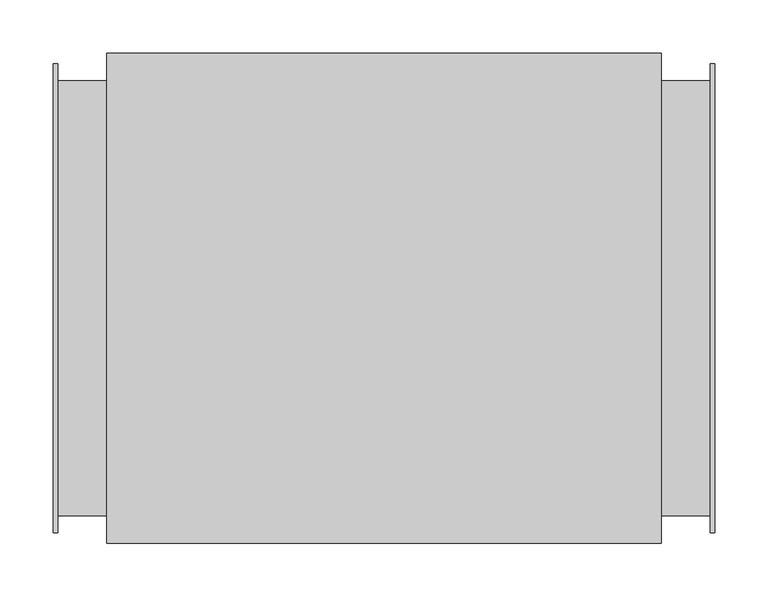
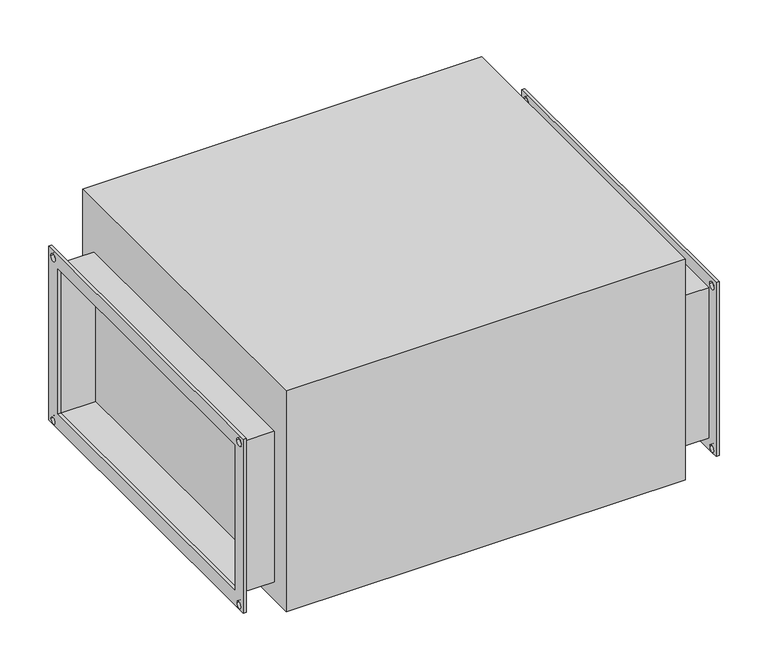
"""IFC4 building model written with IfcOpenShell, lengths in millimetres: proxy geometry."""

from ifc_helpers import new_model, si_unit, frame, origin, place, context, project, spatial, polyline, circle_curve, outline, extrude, source, transform, mapped, element, save
from ifc_brep_helpers import plane_surface, revolved_surface, advanced_brep


def mechanical_equipment_20f9e066(model_context):
    return source(origin(), model_context, "Body", "SolidModel", [
        advanced_brep(
        [(306.5, 220.0, 120.0), (306.5, 220.0, -120.0), (306.5, 210.0, -120.0), (306.5, 215.0, -115.0), (306.5, 205.0, -115.0), (306.5, -210.0, -120.0), (306.5, -205.0, -115.0), (306.5, -215.0, -115.0), (306.5, -220.0, -120.0), (306.5, -220.0, 120.0), (306.5, 200.0, 100.0), (306.5, -200.0, 100.0), (306.5, -200.0, -100.0), (306.5, 200.0, -100.0), (306.5, 205.0, 110.0), (306.5, 215.0, 110.0), (306.5, -215.0, 110.0), (306.5, -205.0, 110.0), (310.5, 220.0, 120.0), (310.5, -220.0, 120.0), (310.5, -220.0, -120.0), (310.5, -210.0, -120.0), (310.5, -215.0, -115.0), (310.5, -205.0, -115.0), (310.5, 210.0, -120.0), (310.5, 205.0, -115.0), (310.5, 215.0, -115.0), (310.5, 220.0, -120.0), (310.5, 200.0, 100.0), (310.5, 200.0, -100.0), (310.5, -200.0, -100.0), (310.5, -200.0, 100.0), (310.5, 215.0, 110.0), (310.5, 205.0, 110.0), (310.5, -205.0, 110.0), (310.5, -215.0, 110.0)],
        [
            (0, 1),
            (1, 2),
            (2, 3, circle_curve(frame((306.5, 210.0, -115.0), z_axis=(1.0, 0.0, 0.0), x_axis=(0.0, 1.0, 0.0)), 5.0)),
            (3, 4, circle_curve(frame((306.5, 210.0, -115.0), z_axis=(1.0, 0.0, 0.0), x_axis=(0.0, 1.0, 0.0)), 5.0)),
            (4, 2, circle_curve(frame((306.5, 210.0, -115.0), z_axis=(1.0, 0.0, 0.0), x_axis=(0.0, 1.0, 0.0)), 5.0)),
            (2, 5),
            (5, 6, circle_curve(frame((306.5, -210.0, -115.0), z_axis=(1.0, 0.0, 0.0), x_axis=(0.0, 1.0, 0.0)), 5.0)),
            (6, 7, circle_curve(frame((306.5, -210.0, -115.0), z_axis=(1.0, 0.0, 0.0), x_axis=(0.0, 1.0, 0.0)), 5.0)),
            (7, 5, circle_curve(frame((306.5, -210.0, -115.0), z_axis=(1.0, 0.0, 0.0), x_axis=(0.0, 1.0, 0.0)), 5.0)),
            (5, 8),
            (8, 9),
            (9, 0),
            (10, 11),
            (11, 12),
            (12, 13),
            (13, 10),
            (14, 15, circle_curve(frame((306.5, 210.0, 110.0), z_axis=(1.0, 0.0, 0.0), x_axis=(0.0, 1.0, 0.0)), 5.0)),
            (15, 14, circle_curve(frame((306.5, 210.0, 110.0), z_axis=(1.0, 0.0, 0.0), x_axis=(0.0, 1.0, 0.0)), 5.0)),
            (16, 17, circle_curve(frame((306.5, -210.0, 110.0), z_axis=(1.0, 0.0, 0.0), x_axis=(0.0, 1.0, 0.0)), 5.0)),
            (17, 16, circle_curve(frame((306.5, -210.0, 110.0), z_axis=(1.0, 0.0, 0.0), x_axis=(0.0, 1.0, 0.0)), 5.0)),
            (18, 19),
            (19, 20),
            (20, 21),
            (21, 22, circle_curve(frame((310.5, -210.0, -115.0), z_axis=(-1.0, 0.0, 0.0), x_axis=(0.0, 1.0, 0.0)), 5.0)),
            (22, 23, circle_curve(frame((310.5, -210.0, -115.0), z_axis=(-1.0, 0.0, 0.0), x_axis=(0.0, 1.0, 0.0)), 5.0)),
            (23, 21, circle_curve(frame((310.5, -210.0, -115.0), z_axis=(-1.0, 0.0, 0.0), x_axis=(0.0, 1.0, 0.0)), 5.0)),
            (21, 24),
            (24, 25, circle_curve(frame((310.5, 210.0, -115.0), z_axis=(-1.0, 0.0, 0.0), x_axis=(0.0, 1.0, 0.0)), 5.0)),
            (25, 26, circle_curve(frame((310.5, 210.0, -115.0), z_axis=(-1.0, 0.0, 0.0), x_axis=(0.0, 1.0, 0.0)), 5.0)),
            (26, 24, circle_curve(frame((310.5, 210.0, -115.0), z_axis=(-1.0, 0.0, 0.0), x_axis=(0.0, 1.0, 0.0)), 5.0)),
            (24, 27),
            (27, 18),
            (28, 29),
            (29, 30),
            (30, 31),
            (31, 28),
            (32, 33, circle_curve(frame((310.5, 210.0, 110.0), z_axis=(-1.0, 0.0, 0.0), x_axis=(0.0, 1.0, 0.0)), 5.0)),
            (33, 32, circle_curve(frame((310.5, 210.0, 110.0), z_axis=(-1.0, 0.0, 0.0), x_axis=(0.0, 1.0, 0.0)), 5.0)),
            (34, 35, circle_curve(frame((310.5, -210.0, 110.0), z_axis=(-1.0, 0.0, 0.0), x_axis=(0.0, 1.0, 0.0)), 5.0)),
            (35, 34, circle_curve(frame((310.5, -210.0, 110.0), z_axis=(-1.0, 0.0, 0.0), x_axis=(0.0, 1.0, 0.0)), 5.0)),
            (13, 29),
            (28, 10),
            (12, 30),
            (11, 31),
            (9, 19),
            (18, 0),
            (8, 20),
            (1, 27),
            (14, 33),
            (32, 15),
            (16, 35),
            (34, 17),
            (7, 22),
            (23, 6),
            (4, 25),
            (26, 3),
        ],
        [
            plane_surface(frame((306.5, 200.0, -100.0), z_axis=(-1.0, 0.0, 0.0), x_axis=(0.0, 0.0, 1.0))),
            plane_surface(frame((310.5, 200.0, -100.0), z_axis=(1.0, 0.0, 0.0), x_axis=(0.0, 0.0, -1.0))),
            plane_surface(frame((310.5, 200.0, 100.0), z_axis=(0.0, -1.0, 0.0), x_axis=(-1.0, 0.0, 0.0))),
            plane_surface(frame((310.5, 200.0, -100.0), z_axis=(0.0, 0.0, 1.0), x_axis=(-1.0, 0.0, 0.0))),
            plane_surface(frame((310.5, -200.0, -100.0), z_axis=(0.0, 1.0, 0.0), x_axis=(-1.0, 0.0, 0.0))),
            plane_surface(frame((310.5, -200.0, 100.0), z_axis=(0.0, 0.0, -1.0), x_axis=(-1.0, 0.0, 0.0))),
            plane_surface(frame((310.5, 220.0, 120.0), z_axis=(0.0, 0.0, 1.0), x_axis=(-1.0, 0.0, 0.0))),
            plane_surface(frame((310.5, -220.0, 120.0), z_axis=(0.0, -1.0, 0.0), x_axis=(-1.0, 0.0, 0.0))),
            plane_surface(frame((310.5, -220.0, -120.0), z_axis=(0.0, 0.0, -1.0), x_axis=(-1.0, 0.0, 0.0))),
            plane_surface(frame((310.5, 220.0, -120.0), z_axis=(0.0, 1.0, 0.0), x_axis=(-1.0, 0.0, 0.0))),
            revolved_surface(polyline([(310.5, 215.0, 110.0), (306.5, 215.0, 110.0)]), (-310.5, 210.0, 110.0), (1.0, 0.0, 0.0)),
            revolved_surface(polyline([(310.5, -205.0, 110.0), (306.5, -205.0, 110.0)]), (0.0, -210.0, 110.0), (1.0, 0.0, 0.0)),
            revolved_surface(polyline([(310.5, -205.0, -115.0), (306.5, -205.0, -115.0)]), (0.0, -210.0, -115.0), (1.0, 0.0, 0.0)),
            revolved_surface(polyline([(310.5, 215.0, -115.0), (306.5, 215.0, -115.0)]), (0.0, 210.0, -115.0), (1.0, 0.0, 0.0)),
        ],
        [
            (0, [[1, 2, 3, 4, 5, 6, 7, 8, 9, 10, 11, 12], [13, 14, 15, 16], [17, 18], [19, 20]]),
            (1, [[21, 22, 23, 24, 25, 26, 27, 28, 29, 30, 31, 32], [33, 34, 35, 36], [37, 38], [39, 40]]),
            (2, [[-16, 41, -33, 42]]),
            (3, [[-15, 43, -34, -41]]),
            (4, [[-14, 44, -35, -43]]),
            (5, [[-13, -42, -36, -44]]),
            (6, [[-12, 45, -21, 46]]),
            (7, [[-11, 47, -22, -45]]),
            (8, [[-47, -10, -6, -2, 48, -31, -27, -23]]),
            (9, [[-1, -46, -32, -48]]),
            (10, [[49, -37, 50, -17]]),
            (10, [[-49, -18, -50, -38]]),
            (11, [[51, -39, 52, -19]]),
            (11, [[-51, -20, -52, -40]]),
            (12, [[53, -24, -26, 54, -7, -9]]),
            (12, [[-53, -8, -54, -25]]),
            (13, [[55, -28, -30, 56, -3, -5]]),
            (13, [[-55, -4, -56, -29]]),
        ],
    ),
        advanced_brep(
        [(-310.5, -220.0, 120.0), (-310.5, 220.0, 120.0), (-310.5, 220.0, -120.0), (-310.5, 210.0, -120.0), (-310.5, 215.0, -115.0), (-310.5, 205.0, -115.0), (-310.5, -210.0, -120.0), (-310.5, -205.0, -115.0), (-310.5, -215.0, -115.0), (-310.5, -220.0, -120.0), (-310.5, -200.0, 100.0), (-310.5, -200.0, -100.0), (-310.5, 200.0, -100.0), (-310.5, 200.0, 100.0), (-310.5, 205.0, 110.0), (-310.5, 215.0, 110.0), (-310.5, -215.0, 110.0), (-310.5, -205.0, 110.0), (-306.5, -220.0, 120.0), (-306.5, -220.0, -120.0), (-306.5, -210.0, -120.0), (-306.5, -215.0, -115.0), (-306.5, -205.0, -115.0), (-306.5, 210.0, -120.0), (-306.5, 205.0, -115.0), (-306.5, 215.0, -115.0), (-306.5, 220.0, -120.0), (-306.5, 220.0, 120.0), (-306.5, -200.0, 100.0), (-306.5, 200.0, 100.0), (-306.5, 200.0, -100.0), (-306.5, -200.0, -100.0), (-306.5, 215.0, 110.0), (-306.5, 205.0, 110.0), (-306.5, -205.0, 110.0), (-306.5, -215.0, 110.0)],
        [
            (0, 1),
            (1, 2),
            (2, 3),
            (3, 4, circle_curve(frame((-310.5, 210.0, -115.0), z_axis=(1.0, 0.0, 0.0), x_axis=(0.0, 1.0, 0.0)), 5.0)),
            (4, 5, circle_curve(frame((-310.5, 210.0, -115.0), z_axis=(1.0, 0.0, 0.0), x_axis=(0.0, 1.0, 0.0)), 5.0)),
            (5, 3, circle_curve(frame((-310.5, 210.0, -115.0), z_axis=(1.0, 0.0, 0.0), x_axis=(0.0, 1.0, 0.0)), 5.0)),
            (3, 6),
            (6, 7, circle_curve(frame((-310.5, -210.0, -115.0), z_axis=(1.0, 0.0, 0.0), x_axis=(0.0, 1.0, 0.0)), 5.0)),
            (7, 8, circle_curve(frame((-310.5, -210.0, -115.0), z_axis=(1.0, 0.0, 0.0), x_axis=(0.0, 1.0, 0.0)), 5.0)),
            (8, 6, circle_curve(frame((-310.5, -210.0, -115.0), z_axis=(1.0, 0.0, 0.0), x_axis=(0.0, 1.0, 0.0)), 5.0)),
            (6, 9),
            (9, 0),
            (10, 11),
            (11, 12),
            (12, 13),
            (13, 10),
            (14, 15, circle_curve(frame((-310.5, 210.0, 110.0), z_axis=(1.0, 0.0, 0.0), x_axis=(0.0, 1.0, 0.0)), 5.0)),
            (15, 14, circle_curve(frame((-310.5, 210.0, 110.0), z_axis=(1.0, 0.0, 0.0), x_axis=(0.0, 1.0, 0.0)), 5.0)),
            (16, 17, circle_curve(frame((-310.5, -210.0, 110.0), z_axis=(1.0, 0.0, 0.0), x_axis=(0.0, 1.0, 0.0)), 5.0)),
            (17, 16, circle_curve(frame((-310.5, -210.0, 110.0), z_axis=(1.0, 0.0, 0.0), x_axis=(0.0, 1.0, 0.0)), 5.0)),
            (18, 19),
            (19, 20),
            (20, 21, circle_curve(frame((-306.5, -210.0, -115.0), z_axis=(-1.0, 0.0, 0.0), x_axis=(0.0, 1.0, 0.0)), 5.0)),
            (21, 22, circle_curve(frame((-306.5, -210.0, -115.0), z_axis=(-1.0, 0.0, 0.0), x_axis=(0.0, 1.0, 0.0)), 5.0)),
            (22, 20, circle_curve(frame((-306.5, -210.0, -115.0), z_axis=(-1.0, 0.0, 0.0), x_axis=(0.0, 1.0, 0.0)), 5.0)),
            (20, 23),
            (23, 24, circle_curve(frame((-306.5, 210.0, -115.0), z_axis=(-1.0, 0.0, 0.0), x_axis=(0.0, 1.0, 0.0)), 5.0)),
            (24, 25, circle_curve(frame((-306.5, 210.0, -115.0), z_axis=(-1.0, 0.0, 0.0), x_axis=(0.0, 1.0, 0.0)), 5.0)),
            (25, 23, circle_curve(frame((-306.5, 210.0, -115.0), z_axis=(-1.0, 0.0, 0.0), x_axis=(0.0, 1.0, 0.0)), 5.0)),
            (23, 26),
            (26, 27),
            (27, 18),
            (28, 29),
            (29, 30),
            (30, 31),
            (31, 28),
            (32, 33, circle_curve(frame((-306.5, 210.0, 110.0), z_axis=(-1.0, 0.0, 0.0), x_axis=(0.0, 1.0, 0.0)), 5.0)),
            (33, 32, circle_curve(frame((-306.5, 210.0, 110.0), z_axis=(-1.0, 0.0, 0.0), x_axis=(0.0, 1.0, 0.0)), 5.0)),
            (34, 35, circle_curve(frame((-306.5, -210.0, 110.0), z_axis=(-1.0, 0.0, 0.0), x_axis=(0.0, 1.0, 0.0)), 5.0)),
            (35, 34, circle_curve(frame((-306.5, -210.0, 110.0), z_axis=(-1.0, 0.0, 0.0), x_axis=(0.0, 1.0, 0.0)), 5.0)),
            (9, 19),
            (18, 0),
            (2, 26),
            (1, 27),
            (13, 29),
            (28, 10),
            (12, 30),
            (11, 31),
            (14, 33),
            (32, 15),
            (16, 35),
            (34, 17),
            (8, 21),
            (22, 7),
            (5, 24),
            (25, 4),
        ],
        [
            plane_surface(frame((-310.5, -220.0, 120.0), z_axis=(-1.0, 0.0, 0.0), x_axis=(0.0, 0.0, 1.0))),
            plane_surface(frame((-306.5, -220.0, 120.0), z_axis=(1.0, 0.0, 0.0), x_axis=(0.0, 0.0, -1.0))),
            plane_surface(frame((-306.5, -220.0, 120.0), z_axis=(0.0, -1.0, 0.0), x_axis=(-1.0, 0.0, 0.0))),
            plane_surface(frame((-306.5, -220.0, -120.0), z_axis=(0.0, 0.0, -1.0), x_axis=(-1.0, 0.0, 0.0))),
            plane_surface(frame((-306.5, 220.0, -120.0), z_axis=(0.0, 1.0, 0.0), x_axis=(-1.0, 0.0, 0.0))),
            plane_surface(frame((-306.5, 220.0, 120.0), z_axis=(0.0, 0.0, 1.0), x_axis=(-1.0, 0.0, 0.0))),
            plane_surface(frame((-306.5, -200.0, 100.0), z_axis=(0.0, 0.0, -1.0), x_axis=(-1.0, 0.0, 0.0))),
            plane_surface(frame((-306.5, 200.0, 100.0), z_axis=(0.0, -1.0, 0.0), x_axis=(-1.0, 0.0, 0.0))),
            plane_surface(frame((-306.5, 200.0, -100.0), z_axis=(0.0, 0.0, 1.0), x_axis=(-1.0, 0.0, 0.0))),
            plane_surface(frame((-306.5, -200.0, -100.0), z_axis=(0.0, 1.0, 0.0), x_axis=(-1.0, 0.0, 0.0))),
            revolved_surface(polyline([(-306.5, 215.0, 110.0), (-310.5, 215.0, 110.0)]), (-310.5, 210.0, 110.0), (1.0, 0.0, 0.0)),
            revolved_surface(polyline([(-306.5, -205.0, 110.0), (-310.5, -205.0, 110.0)]), (0.0, -210.0, 110.0), (1.0, 0.0, 0.0)),
            revolved_surface(polyline([(-306.5, -205.0, -115.0), (-310.5, -205.0, -115.0)]), (0.0, -210.0, -115.0), (1.0, 0.0, 0.0)),
            revolved_surface(polyline([(-306.5, 215.0, -115.0), (-310.5, 215.0, -115.0)]), (0.0, 210.0, -115.0), (1.0, 0.0, 0.0)),
        ],
        [
            (0, [[1, 2, 3, 4, 5, 6, 7, 8, 9, 10, 11, 12], [13, 14, 15, 16], [17, 18], [19, 20]]),
            (1, [[21, 22, 23, 24, 25, 26, 27, 28, 29, 30, 31, 32], [33, 34, 35, 36], [37, 38], [39, 40]]),
            (2, [[-12, 41, -21, 42]]),
            (3, [[-41, -11, -7, -3, 43, -30, -26, -22]]),
            (4, [[-2, 44, -31, -43]]),
            (5, [[-1, -42, -32, -44]]),
            (6, [[-16, 45, -33, 46]]),
            (7, [[-15, 47, -34, -45]]),
            (8, [[-14, 48, -35, -47]]),
            (9, [[-13, -46, -36, -48]]),
            (10, [[49, -37, 50, -17]]),
            (10, [[-49, -18, -50, -38]]),
            (11, [[51, -39, 52, -19]]),
            (11, [[-51, -20, -52, -40]]),
            (12, [[53, -23, -25, 54, -8, -10]]),
            (12, [[-53, -9, -54, -24]]),
            (13, [[55, -27, -29, 56, -4, -6]]),
            (13, [[-55, -5, -56, -28]]),
        ],
    ),
        extrude(outline(polyline([(260.5, 230.0), (260.5, -230.0), (-260.5, -230.0), (-260.5, 230.0), (260.5, 230.0)])), frame((0.0, 0.0, -130.0), z_axis=(0.0, 0.0, 1.0), x_axis=(1.0, 0.0, 0.0)), (0.0, 0.0, 1.0), 305.0),
        extrude(outline(polyline([(-204.0, 104.0), (204.0, 104.0), (204.0, -104.0), (-204.0, -104.0), (-204.0, 104.0)]), holes=[polyline([(200.0, 100.0), (-200.0, 100.0), (-200.0, -100.0), (200.0, -100.0), (200.0, 100.0)])]), frame((-306.5, 0.0, 0.0), z_axis=(1.0, 0.0, 0.0), x_axis=(0.0, 1.0, 0.0)), (0.0, 0.0, 1.0), 46.0),
        extrude(outline(polyline([(-204.0, 104.0), (204.0, 104.0), (204.0, -104.0), (-204.0, -104.0), (-204.0, 104.0)]), holes=[polyline([(200.0, 100.0), (-200.0, 100.0), (-200.0, -100.0), (200.0, -100.0), (200.0, 100.0)])]), frame((260.5, 0.0, 0.0), z_axis=(1.0, 0.0, 0.0), x_axis=(0.0, 1.0, 0.0)), (0.0, 0.0, 1.0), 46.0),
    ])


if __name__ == "__main__":
    model = new_model("IFC4")
    model_context = context("Model", 3, world=origin())
    ifc_project = project(units=[si_unit("LENGTHUNIT", "METRE", prefix="MILLI")], contexts=[model_context])
    site = spatial("IfcSite", under=ifc_project)
    building = spatial("IfcBuilding", under=site)
    placement = place(None, origin())
    mechanical_equipment_shape = mechanical_equipment_20f9e066(model_context)
    element("IfcBuildingElementProxy", 1, Name="Mechanical Equipment", at=placement, inside=building, context=model_context, shape_type="MappedRepresentation", body=[
        mapped(mechanical_equipment_shape, transform((0.0, 0.0, 0.0), x_axis=(1.0, 0.0, 0.0), y_axis=(0.0, 1.0, 0.0), z_axis=(0.0, 0.0, 1.0))),
    ])
    save(model, "model.ifc")
